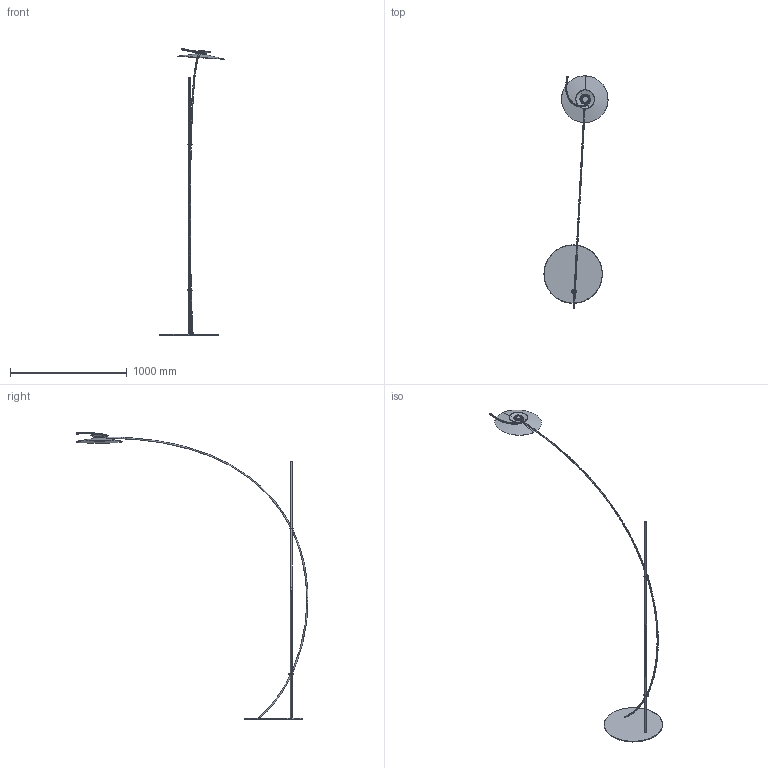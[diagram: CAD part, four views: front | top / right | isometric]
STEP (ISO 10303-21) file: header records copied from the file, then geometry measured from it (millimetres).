
FILE_DESCRIPTION(/* description */ (''),/* implementation_level */ '2;1');
FILE_NAME(/* name */ 'MSBOWJ~1',/* time_stamp */ '2024-10-30T16:56:18+01:00',/* author */ (''),/* organization */ (''),/* preprocessor_version */ 'ST-DEVELOPER v16.5',/* originating_system */ '',/* authorisation */ '');
FILE_SCHEMA (('AUTOMOTIVE_DESIGN'));
Length unit declared in the file: millimetre
Products named in the file (1): Document
Bounding box: 548.84 x 1986.2 x 2453.11 mm (x, y, z)
Volume: 2446913.5 mm3; surface area: 1141730.3 mm2
Topology: 25 solids, 26 shells, 875 faces, 2207 edges, 1358 vertices
Faces by surface type: bspline 724, plane 151
Entity records: 45979 total; most frequent: CARTESIAN_POINT 32978, ORIENTED_EDGE 4342, EDGE_CURVE 2171, VERTEX_POINT 1358, B_SPLINE_CURVE_WITH_KNOTS 1337, EDGE_LOOP 975, ADVANCED_FACE 875, FACE_OUTER_BOUND 875
